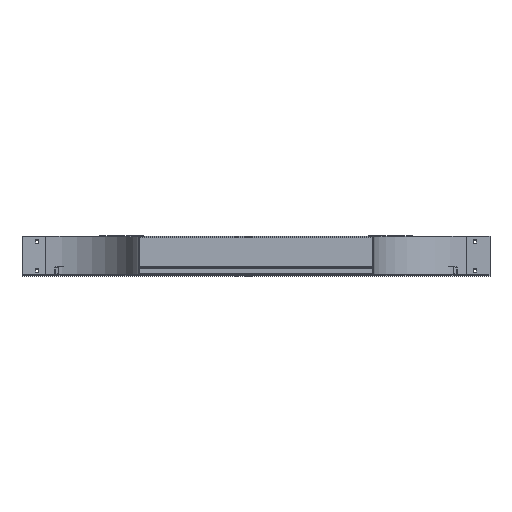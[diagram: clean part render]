
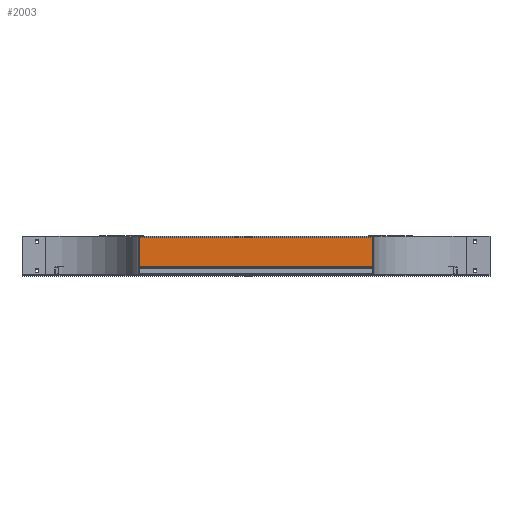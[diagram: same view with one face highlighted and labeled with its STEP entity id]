
A CAD part, top view. The second image highlights one B-rep face of the part: STEP entity #2003.
In plain terms, the highlighted planar face has unit normal (0, 0, 1) as drawn and (0, 1, 0) by its records, which use the part's own axes.
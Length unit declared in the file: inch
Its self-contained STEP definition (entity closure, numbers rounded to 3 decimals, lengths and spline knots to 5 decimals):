
#1445=DIRECTION('',(-1.,0.,0.));
#1446=VECTOR('',#1445,4.93);
#1447=CARTESIAN_POINT('',(5.015,0.08,-30.08));
#1448=LINE('',#1447,#1446);
#1473=DIRECTION('',(0.,0.,1.));
#1474=VECTOR('',#1473,60.16);
#1475=CARTESIAN_POINT('',(0.085,0.08,-30.08));
#1476=LINE('',#1475,#1474);
#1477=DIRECTION('',(0.,0.,1.));
#1478=VECTOR('',#1477,60.16);
#1479=CARTESIAN_POINT('',(5.015,0.08,-30.08));
#1480=LINE('',#1479,#1478);
#1481=DIRECTION('',(0.,0.,1.));
#1482=VECTOR('',#1481,0.41);
#1483=CARTESIAN_POINT('',(0.4825,0.08,-28.325));
#1484=LINE('',#1483,#1482);
#1485=DIRECTION('',(1.,0.,0.));
#1486=VECTOR('',#1485,0.41);
#1487=CARTESIAN_POINT('',(0.4825,0.08,-27.915));
#1488=LINE('',#1487,#1486);
#1489=DIRECTION('',(0.,0.,-1.));
#1490=VECTOR('',#1489,0.41);
#1491=CARTESIAN_POINT('',(0.8925,0.08,-27.915));
#1492=LINE('',#1491,#1490);
#1493=DIRECTION('',(-1.,0.,0.));
#1494=VECTOR('',#1493,0.41);
#1495=CARTESIAN_POINT('',(0.8925,0.08,-28.325));
#1496=LINE('',#1495,#1494);
#1497=DIRECTION('',(-1.,0.,0.));
#1498=VECTOR('',#1497,0.41);
#1499=CARTESIAN_POINT('',(4.6175,0.08,-28.325));
#1500=LINE('',#1499,#1498);
#1501=DIRECTION('',(0.,0.,1.));
#1502=VECTOR('',#1501,0.41);
#1503=CARTESIAN_POINT('',(4.2075,0.08,-28.325));
#1504=LINE('',#1503,#1502);
#1505=DIRECTION('',(1.,0.,0.));
#1506=VECTOR('',#1505,0.41);
#1507=CARTESIAN_POINT('',(4.2075,0.08,-27.915));
#1508=LINE('',#1507,#1506);
#1509=DIRECTION('',(0.,0.,-1.));
#1510=VECTOR('',#1509,0.41);
#1511=CARTESIAN_POINT('',(4.6175,0.08,-27.915));
#1512=LINE('',#1511,#1510);
#1513=DIRECTION('',(0.,0.,-1.));
#1514=VECTOR('',#1513,0.41);
#1515=CARTESIAN_POINT('',(0.4825,0.08,28.325));
#1516=LINE('',#1515,#1514);
#1517=DIRECTION('',(-1.,0.,0.));
#1518=VECTOR('',#1517,0.41);
#1519=CARTESIAN_POINT('',(0.8925,0.08,28.325));
#1520=LINE('',#1519,#1518);
#1521=DIRECTION('',(0.,0.,1.));
#1522=VECTOR('',#1521,0.41);
#1523=CARTESIAN_POINT('',(0.8925,0.08,27.915));
#1524=LINE('',#1523,#1522);
#1525=DIRECTION('',(1.,0.,0.));
#1526=VECTOR('',#1525,0.41);
#1527=CARTESIAN_POINT('',(0.4825,0.08,27.915));
#1528=LINE('',#1527,#1526);
#1529=DIRECTION('',(-1.,0.,0.));
#1530=VECTOR('',#1529,0.41);
#1531=CARTESIAN_POINT('',(4.6175,0.08,28.325));
#1532=LINE('',#1531,#1530);
#1533=DIRECTION('',(0.,0.,1.));
#1534=VECTOR('',#1533,0.41);
#1535=CARTESIAN_POINT('',(4.6175,0.08,27.915));
#1536=LINE('',#1535,#1534);
#1537=DIRECTION('',(1.,0.,0.));
#1538=VECTOR('',#1537,0.41);
#1539=CARTESIAN_POINT('',(4.2075,0.08,27.915));
#1540=LINE('',#1539,#1538);
#1541=DIRECTION('',(0.,0.,-1.));
#1542=VECTOR('',#1541,0.41);
#1543=CARTESIAN_POINT('',(4.2075,0.08,28.325));
#1544=LINE('',#1543,#1542);
#1653=DIRECTION('',(-1.,0.,0.));
#1654=VECTOR('',#1653,4.93);
#1655=CARTESIAN_POINT('',(5.015,0.08,30.08));
#1656=LINE('',#1655,#1654);
#1765=CARTESIAN_POINT('',(5.015,0.08,-30.08));
#1766=VERTEX_POINT('',#1765);
#1767=CARTESIAN_POINT('',(0.085,0.08,-30.08));
#1768=VERTEX_POINT('',#1767);
#1789=CARTESIAN_POINT('',(5.015,0.08,30.08));
#1790=VERTEX_POINT('',#1789);
#1791=CARTESIAN_POINT('',(0.085,0.08,30.08));
#1792=VERTEX_POINT('',#1791);
#1805=CARTESIAN_POINT('',(0.4825,0.08,-28.325));
#1806=CARTESIAN_POINT('',(0.4825,0.08,-27.915));
#1807=VERTEX_POINT('',#1805);
#1808=VERTEX_POINT('',#1806);
#1809=CARTESIAN_POINT('',(0.8925,0.08,-27.915));
#1810=VERTEX_POINT('',#1809);
#1811=CARTESIAN_POINT('',(0.8925,0.08,-28.325));
#1812=VERTEX_POINT('',#1811);
#1821=CARTESIAN_POINT('',(4.6175,0.08,-28.325));
#1822=CARTESIAN_POINT('',(4.2075,0.08,-28.325));
#1823=VERTEX_POINT('',#1821);
#1824=VERTEX_POINT('',#1822);
#1825=CARTESIAN_POINT('',(4.2075,0.08,-27.915));
#1826=VERTEX_POINT('',#1825);
#1827=CARTESIAN_POINT('',(4.6175,0.08,-27.915));
#1828=VERTEX_POINT('',#1827);
#1829=CARTESIAN_POINT('',(0.4825,0.08,28.325));
#1831=VERTEX_POINT('',#1829);
#1833=CARTESIAN_POINT('',(0.4825,0.08,27.915));
#1835=VERTEX_POINT('',#1833);
#1837=CARTESIAN_POINT('',(0.8925,0.08,27.915));
#1839=VERTEX_POINT('',#1837);
#1841=CARTESIAN_POINT('',(0.8925,0.08,28.325));
#1843=VERTEX_POINT('',#1841);
#1845=CARTESIAN_POINT('',(4.6175,0.08,28.325));
#1847=VERTEX_POINT('',#1845);
#1849=CARTESIAN_POINT('',(4.2075,0.08,28.325));
#1851=VERTEX_POINT('',#1849);
#1853=CARTESIAN_POINT('',(4.2075,0.08,27.915));
#1855=VERTEX_POINT('',#1853);
#1857=CARTESIAN_POINT('',(4.6175,0.08,27.915));
#1859=VERTEX_POINT('',#1857);
#1950=CARTESIAN_POINT('',(5.015,0.08,-30.08));
#1951=DIRECTION('',(0.,1.,0.));
#1952=DIRECTION('',(-1.,0.,0.));
#1953=AXIS2_PLACEMENT_3D('',#1950,#1951,#1952);
#1954=PLANE('',#1953);
#1955=ORIENTED_EDGE('',*,*,#1882,.F.);
#1957=ORIENTED_EDGE('',*,*,#1956,.T.);
#1959=ORIENTED_EDGE('',*,*,#1958,.T.);
#1960=ORIENTED_EDGE('',*,*,#1942,.F.);
#1961=EDGE_LOOP('',(#1955,#1957,#1959,#1960));
#1962=FACE_OUTER_BOUND('',#1961,.F.);
#1964=ORIENTED_EDGE('',*,*,#1963,.T.);
#1966=ORIENTED_EDGE('',*,*,#1965,.T.);
#1968=ORIENTED_EDGE('',*,*,#1967,.T.);
#1970=ORIENTED_EDGE('',*,*,#1969,.T.);
#1971=EDGE_LOOP('',(#1964,#1966,#1968,#1970));
#1972=FACE_BOUND('',#1971,.F.);
#1974=ORIENTED_EDGE('',*,*,#1973,.T.);
#1976=ORIENTED_EDGE('',*,*,#1975,.T.);
#1978=ORIENTED_EDGE('',*,*,#1977,.T.);
#1980=ORIENTED_EDGE('',*,*,#1979,.T.);
#1981=EDGE_LOOP('',(#1974,#1976,#1978,#1980));
#1982=FACE_BOUND('',#1981,.F.);
#1984=ORIENTED_EDGE('',*,*,#1983,.F.);
#1986=ORIENTED_EDGE('',*,*,#1985,.F.);
#1988=ORIENTED_EDGE('',*,*,#1987,.F.);
#1990=ORIENTED_EDGE('',*,*,#1989,.F.);
#1991=EDGE_LOOP('',(#1984,#1986,#1988,#1990));
#1992=FACE_BOUND('',#1991,.F.);
#1994=ORIENTED_EDGE('',*,*,#1993,.F.);
#1996=ORIENTED_EDGE('',*,*,#1995,.F.);
#1998=ORIENTED_EDGE('',*,*,#1997,.F.);
#2000=ORIENTED_EDGE('',*,*,#1999,.F.);
#2001=EDGE_LOOP('',(#1994,#1996,#1998,#2000));
#2002=FACE_BOUND('',#2001,.F.);
#2003=ADVANCED_FACE('',(#1962,#1972,#1982,#1992,#2002),#1954,.T.);
#1882=EDGE_CURVE('',#1766,#1768,#1448,.T.);
#1942=EDGE_CURVE('',#1768,#1792,#1476,.T.);
#1956=EDGE_CURVE('',#1766,#1790,#1480,.T.);
#1958=EDGE_CURVE('',#1790,#1792,#1656,.T.);
#1963=EDGE_CURVE('',#1807,#1808,#1484,.T.);
#1965=EDGE_CURVE('',#1808,#1810,#1488,.T.);
#1967=EDGE_CURVE('',#1810,#1812,#1492,.T.);
#1969=EDGE_CURVE('',#1812,#1807,#1496,.T.);
#1973=EDGE_CURVE('',#1823,#1824,#1500,.T.);
#1975=EDGE_CURVE('',#1824,#1826,#1504,.T.);
#1977=EDGE_CURVE('',#1826,#1828,#1508,.T.);
#1979=EDGE_CURVE('',#1828,#1823,#1512,.T.);
#1983=EDGE_CURVE('',#1831,#1835,#1516,.T.);
#1985=EDGE_CURVE('',#1843,#1831,#1520,.T.);
#1987=EDGE_CURVE('',#1839,#1843,#1524,.T.);
#1989=EDGE_CURVE('',#1835,#1839,#1528,.T.);
#1993=EDGE_CURVE('',#1847,#1851,#1532,.T.);
#1995=EDGE_CURVE('',#1859,#1847,#1536,.T.);
#1997=EDGE_CURVE('',#1855,#1859,#1540,.T.);
#1999=EDGE_CURVE('',#1851,#1855,#1544,.T.);
